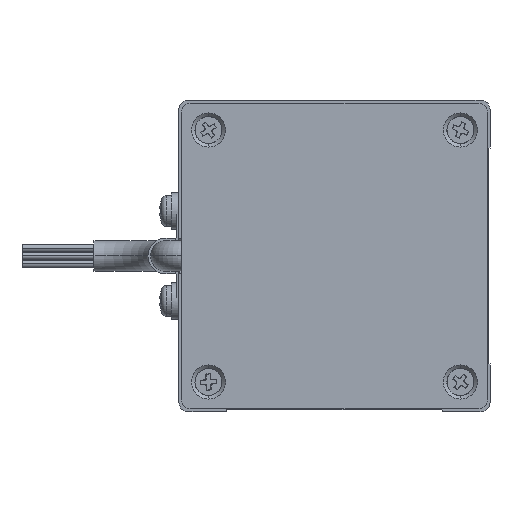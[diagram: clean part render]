
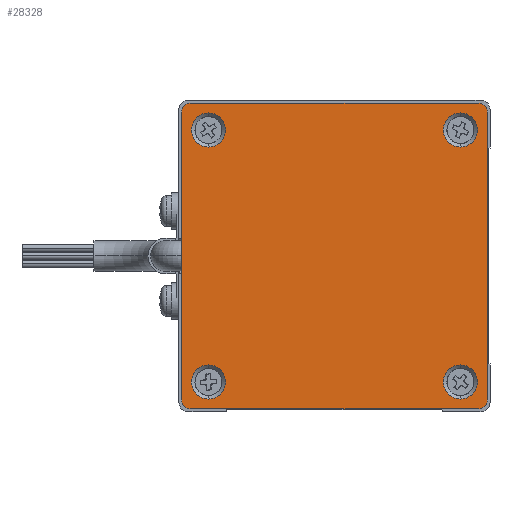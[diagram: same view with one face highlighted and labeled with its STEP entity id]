
A CAD part, front view. The second image highlights one B-rep face of the part: STEP entity #28328.
In plain terms, the highlighted planar face has unit normal (0, -1, 0).
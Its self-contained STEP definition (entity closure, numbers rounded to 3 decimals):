
#5 = DIRECTION ( 'NONE',  ( 0., 0., 1. ) ) ;
#60 = EDGE_CURVE ( 'NONE', #16388, #29960, #18469, .T. ) ;
#128 = CARTESIAN_POINT ( 'NONE',  ( -14., -34., -15.9 ) ) ;
#170 = VERTEX_POINT ( 'NONE', #6560 ) ;
#172 = EDGE_CURVE ( 'NONE', #1946, #9655, #22516, .T. ) ;
#279 = DIRECTION ( 'NONE',  ( 0., -1., 0. ) ) ;
#309 = DIRECTION ( 'NONE',  ( 0., 0., 1. ) ) ;
#361 = LINE ( 'NONE', #19276, #14832 ) ;
#850 = VERTEX_POINT ( 'NONE', #17282 ) ;
#1246 = ORIENTED_EDGE ( 'NONE', *, *, #22929, .F. ) ;
#1311 = CARTESIAN_POINT ( 'NONE',  ( -14., -34., 12.1 ) ) ;
#1399 = DIRECTION ( 'NONE',  ( 0., 0., 1. ) ) ;
#1449 = EDGE_CURVE ( 'NONE', #23490, #12364, #32327, .T. ) ;
#1756 = DIRECTION ( 'NONE',  ( 0., 1., 0. ) ) ;
#1946 = VERTEX_POINT ( 'NONE', #31950 ) ;
#2055 = CARTESIAN_POINT ( 'NONE',  ( 17., -34., -17. ) ) ;
#2292 = ORIENTED_EDGE ( 'NONE', *, *, #12255, .T. ) ;
#2331 = AXIS2_PLACEMENT_3D ( 'NONE', #12581, #25457, #28141 ) ;
#2973 = DIRECTION ( 'NONE',  ( 0., -1., 0. ) ) ;
#3045 = VERTEX_POINT ( 'NONE', #31398 ) ;
#3091 = VERTEX_POINT ( 'NONE', #23500 ) ;
#3262 = EDGE_CURVE ( 'NONE', #25724, #3045, #26155, .T. ) ;
#3284 = ORIENTED_EDGE ( 'NONE', *, *, #23771, .T. ) ;
#3388 = EDGE_CURVE ( 'NONE', #170, #3091, #34450, .T. ) ;
#3426 = EDGE_CURVE ( 'NONE', #12364, #23490, #5390, .T. ) ;
#4076 = DIRECTION ( 'NONE',  ( 0., 0., -1. ) ) ;
#4105 = FACE_BOUND ( 'NONE', #29408, .T. ) ;
#4235 = CARTESIAN_POINT ( 'NONE',  ( 16., -34., 17. ) ) ;
#4421 = DIRECTION ( 'NONE',  ( 0., -1., 0. ) ) ;
#4634 = FACE_BOUND ( 'NONE', #28987, .T. ) ;
#4731 = DIRECTION ( 'NONE',  ( 1., 0., 0. ) ) ;
#5100 = EDGE_CURVE ( 'NONE', #9655, #1946, #14381, .T. ) ;
#5312 = ORIENTED_EDGE ( 'NONE', *, *, #3262, .F. ) ;
#5390 = CIRCLE ( 'NONE', #19027, 1.9 ) ;
#5831 = EDGE_CURVE ( 'NONE', #29986, #850, #25912, .T. ) ;
#6560 = CARTESIAN_POINT ( 'NONE',  ( -16., -34., 17. ) ) ;
#6671 = EDGE_LOOP ( 'NONE', ( #28560, #7738 ) ) ;
#6734 = CARTESIAN_POINT ( 'NONE',  ( -14., -34., -14. ) ) ;
#7228 = CARTESIAN_POINT ( 'NONE',  ( -17., -34., 17. ) ) ;
#7349 = DIRECTION ( 'NONE',  ( 0., 0., -1. ) ) ;
#7430 = ORIENTED_EDGE ( 'NONE', *, *, #23808, .F. ) ;
#7577 = CARTESIAN_POINT ( 'NONE',  ( 17., -34., 16. ) ) ;
#7738 = ORIENTED_EDGE ( 'NONE', *, *, #5100, .F. ) ;
#8120 = DIRECTION ( 'NONE',  ( 0., -1., 0. ) ) ;
#8833 = CARTESIAN_POINT ( 'NONE',  ( 17., -34., -16. ) ) ;
#8850 = DIRECTION ( 'NONE',  ( 0., 0., 1. ) ) ;
#8907 = CARTESIAN_POINT ( 'NONE',  ( -17., -34., -17. ) ) ;
#9424 = LINE ( 'NONE', #8907, #34912 ) ;
#9655 = VERTEX_POINT ( 'NONE', #29256 ) ;
#9824 = FACE_BOUND ( 'NONE', #27510, .T. ) ;
#9867 = CARTESIAN_POINT ( 'NONE',  ( 16., -34., -17. ) ) ;
#10035 = AXIS2_PLACEMENT_3D ( 'NONE', #30212, #26631, #26974 ) ;
#10307 = CIRCLE ( 'NONE', #2331, 1. ) ;
#10597 = CIRCLE ( 'NONE', #32883, 1. ) ;
#10678 = VERTEX_POINT ( 'NONE', #7577 ) ;
#10966 = VERTEX_POINT ( 'NONE', #21809 ) ;
#11202 = DIRECTION ( 'NONE',  ( 0., 0., -1. ) ) ;
#11209 = ORIENTED_EDGE ( 'NONE', *, *, #5831, .F. ) ;
#12255 = EDGE_CURVE ( 'NONE', #10678, #34632, #10307, .T. ) ;
#12364 = VERTEX_POINT ( 'NONE', #1311 ) ;
#12581 = CARTESIAN_POINT ( 'NONE',  ( 16., -34., 16. ) ) ;
#12740 = LINE ( 'NONE', #7228, #34629 ) ;
#12837 = FACE_OUTER_BOUND ( 'NONE', #20072, .T. ) ;
#12974 = CARTESIAN_POINT ( 'NONE',  ( -14., -34., -14. ) ) ;
#13469 = EDGE_CURVE ( 'NONE', #16388, #22487, #9424, .T. ) ;
#13845 = CARTESIAN_POINT ( 'NONE',  ( -14., -34., 14. ) ) ;
#13958 = ORIENTED_EDGE ( 'NONE', *, *, #60, .T. ) ;
#14381 = CIRCLE ( 'NONE', #33246, 1.9 ) ;
#14832 = VECTOR ( 'NONE', #16082, 1000. ) ;
#15104 = DIRECTION ( 'NONE',  ( 0., 0., -1. ) ) ;
#15685 = PLANE ( 'NONE',  #26709 ) ;
#16082 = DIRECTION ( 'NONE',  ( 0., 0., 1. ) ) ;
#16388 = VERTEX_POINT ( 'NONE', #9867 ) ;
#17282 = CARTESIAN_POINT ( 'NONE',  ( 14., -34., -15.9 ) ) ;
#17435 = CARTESIAN_POINT ( 'NONE',  ( 14., -34., 14. ) ) ;
#17901 = AXIS2_PLACEMENT_3D ( 'NONE', #34096, #28555, #4076 ) ;
#18469 = CIRCLE ( 'NONE', #21906, 1. ) ;
#18981 = AXIS2_PLACEMENT_3D ( 'NONE', #30656, #2973, #8850 ) ;
#19027 = AXIS2_PLACEMENT_3D ( 'NONE', #13845, #279, #11202 ) ;
#19276 = CARTESIAN_POINT ( 'NONE',  ( -17., -34., -17. ) ) ;
#19383 = ORIENTED_EDGE ( 'NONE', *, *, #1449, .F. ) ;
#19828 = CARTESIAN_POINT ( 'NONE',  ( -16., -34., -17. ) ) ;
#19852 = ORIENTED_EDGE ( 'NONE', *, *, #33958, .F. ) ;
#19941 = ORIENTED_EDGE ( 'NONE', *, *, #3426, .F. ) ;
#20072 = EDGE_LOOP ( 'NONE', ( #1246, #2292, #28858, #28760, #19852, #3284, #26420, #13958 ) ) ;
#20497 = FACE_BOUND ( 'NONE', #6671, .T. ) ;
#20521 = ORIENTED_EDGE ( 'NONE', *, *, #25256, .F. ) ;
#20818 = DIRECTION ( 'NONE',  ( 0., 0., -1. ) ) ;
#21809 = CARTESIAN_POINT ( 'NONE',  ( -17., -34., -16. ) ) ;
#21858 = DIRECTION ( 'NONE',  ( 0., 0., -1. ) ) ;
#21906 = AXIS2_PLACEMENT_3D ( 'NONE', #22269, #24768, #309 ) ;
#22269 = CARTESIAN_POINT ( 'NONE',  ( 16., -34., -16. ) ) ;
#22487 = VERTEX_POINT ( 'NONE', #19828 ) ;
#22516 = CIRCLE ( 'NONE', #28258, 1.9 ) ;
#22601 = AXIS2_PLACEMENT_3D ( 'NONE', #23397, #31827, #7349 ) ;
#22706 = CARTESIAN_POINT ( 'NONE',  ( -14., -34., 15.9 ) ) ;
#22757 = AXIS2_PLACEMENT_3D ( 'NONE', #6734, #23484, #15104 ) ;
#22929 = EDGE_CURVE ( 'NONE', #10678, #29960, #29584, .T. ) ;
#23327 = DIRECTION ( 'NONE',  ( 0., 0., -1. ) ) ;
#23397 = CARTESIAN_POINT ( 'NONE',  ( -14., -34., 14. ) ) ;
#23484 = DIRECTION ( 'NONE',  ( 0., -1., 0. ) ) ;
#23490 = VERTEX_POINT ( 'NONE', #22706 ) ;
#23500 = CARTESIAN_POINT ( 'NONE',  ( -17., -34., 16. ) ) ;
#23771 = EDGE_CURVE ( 'NONE', #10966, #22487, #10597, .T. ) ;
#23808 = EDGE_CURVE ( 'NONE', #850, #29986, #25424, .T. ) ;
#24401 = DIRECTION ( 'NONE',  ( 0., -1., 0. ) ) ;
#24768 = DIRECTION ( 'NONE',  ( 0., -1., 0. ) ) ;
#24949 = VECTOR ( 'NONE', #26352, 1000. ) ;
#25242 = CARTESIAN_POINT ( 'NONE',  ( 14., -34., 14. ) ) ;
#25256 = EDGE_CURVE ( 'NONE', #3045, #25724, #34206, .T. ) ;
#25424 = CIRCLE ( 'NONE', #10035, 1.9 ) ;
#25457 = DIRECTION ( 'NONE',  ( 0., -1., 0. ) ) ;
#25588 = AXIS2_PLACEMENT_3D ( 'NONE', #12974, #24401, #20818 ) ;
#25724 = VERTEX_POINT ( 'NONE', #128 ) ;
#25912 = CIRCLE ( 'NONE', #17901, 1.9 ) ;
#26155 = CIRCLE ( 'NONE', #25588, 1.9 ) ;
#26352 = DIRECTION ( 'NONE',  ( 0., 0., -1. ) ) ;
#26420 = ORIENTED_EDGE ( 'NONE', *, *, #13469, .F. ) ;
#26631 = DIRECTION ( 'NONE',  ( 0., -1., 0. ) ) ;
#26709 = AXIS2_PLACEMENT_3D ( 'NONE', #31433, #1756, #1399 ) ;
#26974 = DIRECTION ( 'NONE',  ( 0., 0., -1. ) ) ;
#27349 = CARTESIAN_POINT ( 'NONE',  ( -16., -34., -16. ) ) ;
#27510 = EDGE_LOOP ( 'NONE', ( #19941, #19383 ) ) ;
#27783 = CARTESIAN_POINT ( 'NONE',  ( 14., -34., -12.1 ) ) ;
#28141 = DIRECTION ( 'NONE',  ( 0., 0., 1. ) ) ;
#28258 = AXIS2_PLACEMENT_3D ( 'NONE', #17435, #4421, #23327 ) ;
#28328 = ADVANCED_FACE ( 'NONE', ( #4634, #9824, #20497, #12837, #4105 ), #15685, .F. ) ;
#28555 = DIRECTION ( 'NONE',  ( 0., -1., 0. ) ) ;
#28560 = ORIENTED_EDGE ( 'NONE', *, *, #172, .F. ) ;
#28760 = ORIENTED_EDGE ( 'NONE', *, *, #3388, .T. ) ;
#28858 = ORIENTED_EDGE ( 'NONE', *, *, #35022, .F. ) ;
#28987 = EDGE_LOOP ( 'NONE', ( #7430, #11209 ) ) ;
#29256 = CARTESIAN_POINT ( 'NONE',  ( 14., -34., 15.9 ) ) ;
#29408 = EDGE_LOOP ( 'NONE', ( #5312, #20521 ) ) ;
#29584 = LINE ( 'NONE', #2055, #24949 ) ;
#29960 = VERTEX_POINT ( 'NONE', #8833 ) ;
#29986 = VERTEX_POINT ( 'NONE', #27783 ) ;
#30212 = CARTESIAN_POINT ( 'NONE',  ( 14., -34., -14. ) ) ;
#30656 = CARTESIAN_POINT ( 'NONE',  ( -16., -34., 16. ) ) ;
#31398 = CARTESIAN_POINT ( 'NONE',  ( -14., -34., -12.1 ) ) ;
#31433 = CARTESIAN_POINT ( 'NONE',  ( -17., -34., 17. ) ) ;
#31827 = DIRECTION ( 'NONE',  ( 0., -1., 0. ) ) ;
#31950 = CARTESIAN_POINT ( 'NONE',  ( 14., -34., 12.1 ) ) ;
#32327 = CIRCLE ( 'NONE', #22601, 1.9 ) ;
#32883 = AXIS2_PLACEMENT_3D ( 'NONE', #27349, #34847, #5 ) ;
#33222 = DIRECTION ( 'NONE',  ( -1., 0., 0. ) ) ;
#33246 = AXIS2_PLACEMENT_3D ( 'NONE', #25242, #8120, #21858 ) ;
#33958 = EDGE_CURVE ( 'NONE', #10966, #3091, #361, .T. ) ;
#34096 = CARTESIAN_POINT ( 'NONE',  ( 14., -34., -14. ) ) ;
#34206 = CIRCLE ( 'NONE', #22757, 1.9 ) ;
#34450 = CIRCLE ( 'NONE', #18981, 1. ) ;
#34629 = VECTOR ( 'NONE', #4731, 1000. ) ;
#34632 = VERTEX_POINT ( 'NONE', #4235 ) ;
#34847 = DIRECTION ( 'NONE',  ( 0., -1., 0. ) ) ;
#34912 = VECTOR ( 'NONE', #33222, 1000. ) ;
#35022 = EDGE_CURVE ( 'NONE', #170, #34632, #12740, .T. ) ;
